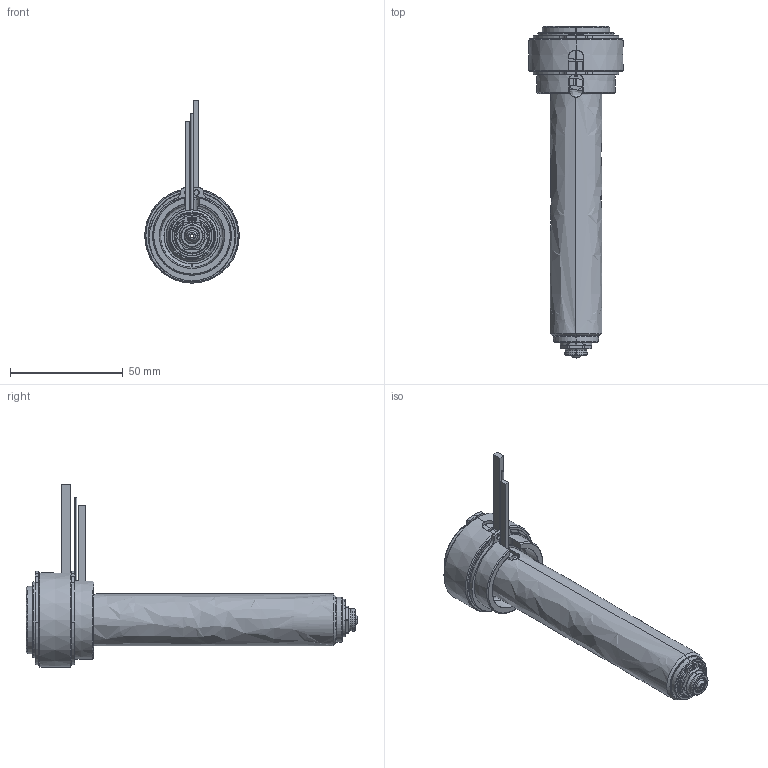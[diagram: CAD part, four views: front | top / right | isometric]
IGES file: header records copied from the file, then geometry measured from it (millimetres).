
Start section: SolidWorks IGES file using analytic representation for surfaces
Global section: file name: C:\Documents and Settings\ws-20\Desktop\TEM\UGER3553-M-A-1 [Øb-1.70  ØC-6.0].IGS; native system: SolidWorks 2012; preprocessor: SolidWorks 2012; author: ws-20; date: 120410.094917; units: millimetre
Bounding box: 42 x 147.4 x 80.9 mm (x, y, z)
Surface area: 43833.6 mm2 (no closed solid volume)
Topology: 0 solids, 0 shells, 198 faces, 3290 edges, 3290 vertices
Faces by surface type: revolution 125, bspline 73
